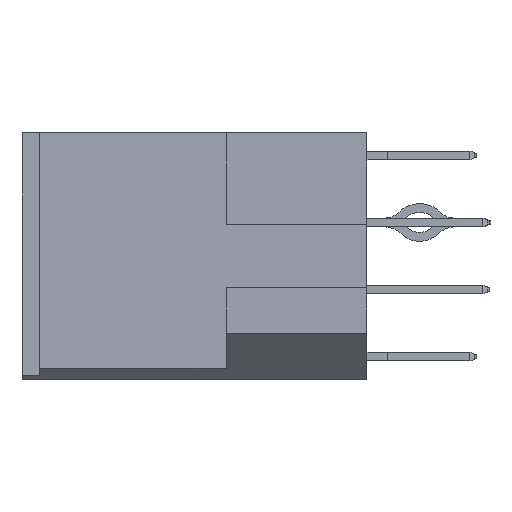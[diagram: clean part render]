
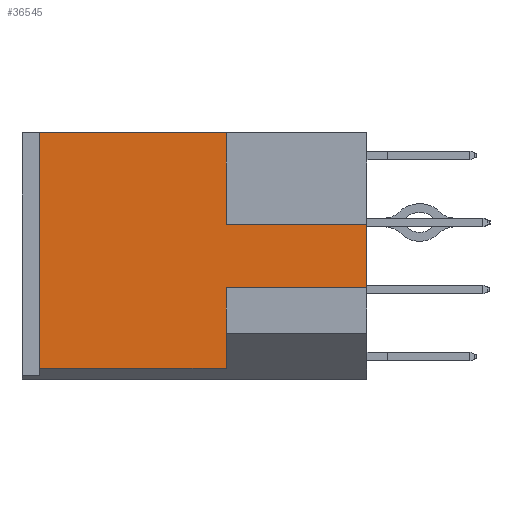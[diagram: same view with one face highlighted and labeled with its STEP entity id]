
A CAD part, left-side view. The second image highlights one B-rep face of the part: STEP entity #36545.
In plain terms, the highlighted planar face has unit normal (-1, 0, 0).
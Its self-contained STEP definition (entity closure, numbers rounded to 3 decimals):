
#94 = VERTEX_POINT ( 'NONE', #20572 ) ;
#713 = DIRECTION ( 'NONE',  ( 0., 0., -1. ) ) ;
#787 = VECTOR ( 'NONE', #25793, 1000. ) ;
#2533 = LINE ( 'NONE', #24975, #3981 ) ;
#2606 = VERTEX_POINT ( 'NONE', #25794 ) ;
#2812 = LINE ( 'NONE', #38602, #787 ) ;
#3001 = ORIENTED_EDGE ( 'NONE', *, *, #18789, .T. ) ;
#3102 = VECTOR ( 'NONE', #713, 1000. ) ;
#3981 = VECTOR ( 'NONE', #21590, 1000. ) ;
#5140 = DIRECTION ( 'NONE',  ( 0., -1., 0. ) ) ;
#5220 = VERTEX_POINT ( 'NONE', #19575 ) ;
#5568 = DIRECTION ( 'NONE',  ( 0., -1., 0. ) ) ;
#6115 = VERTEX_POINT ( 'NONE', #19783 ) ;
#7043 = LINE ( 'NONE', #30643, #24716 ) ;
#7347 = VECTOR ( 'NONE', #9119, 1000. ) ;
#8269 = VERTEX_POINT ( 'NONE', #31326 ) ;
#9119 = DIRECTION ( 'NONE',  ( 0., -1., 0. ) ) ;
#9605 = CARTESIAN_POINT ( 'NONE',  ( -10.925, 5.2, 3.5 ) ) ;
#9697 = VERTEX_POINT ( 'NONE', #21765 ) ;
#11444 = LINE ( 'NONE', #13621, #3102 ) ;
#13076 = LINE ( 'NONE', #37970, #38072 ) ;
#13621 = CARTESIAN_POINT ( 'NONE',  ( -10.925, 5.2, 5. ) ) ;
#14588 = AXIS2_PLACEMENT_3D ( 'NONE', #35726, #27117, #36681 ) ;
#15154 = CARTESIAN_POINT ( 'NONE',  ( -10.925, -4.1, -3.195 ) ) ;
#15799 = CARTESIAN_POINT ( 'NONE',  ( -10.925, -4.1, 3.5 ) ) ;
#16750 = EDGE_LOOP ( 'NONE', ( #31126, #28504, #27374, #27071, #39712, #3001, #28943, #36838 ) ) ;
#18789 = EDGE_CURVE ( 'NONE', #8269, #6115, #27956, .T. ) ;
#19252 = DIRECTION ( 'NONE',  ( 0., 0., -1. ) ) ;
#19575 = CARTESIAN_POINT ( 'NONE',  ( -10.925, -4.1, -0.9 ) ) ;
#19783 = CARTESIAN_POINT ( 'NONE',  ( -10.925, -0.1, -3.195 ) ) ;
#20572 = CARTESIAN_POINT ( 'NONE',  ( -10.925, -0.1, 0.9 ) ) ;
#21590 = DIRECTION ( 'NONE',  ( 0., 0., -1. ) ) ;
#21765 = CARTESIAN_POINT ( 'NONE',  ( -10.925, -0.1, -0.9 ) ) ;
#23860 = VECTOR ( 'NONE', #33383, 1000. ) ;
#23940 = CARTESIAN_POINT ( 'NONE',  ( -10.925, 0.556, 0.9 ) ) ;
#24666 = VERTEX_POINT ( 'NONE', #39473 ) ;
#24716 = VECTOR ( 'NONE', #5568, 1000. ) ;
#24975 = CARTESIAN_POINT ( 'NONE',  ( -10.925, -0.1, 5. ) ) ;
#25793 = DIRECTION ( 'NONE',  ( 0., 0., -1. ) ) ;
#25794 = CARTESIAN_POINT ( 'NONE',  ( -10.925, -4.1, 0.9 ) ) ;
#25838 = LINE ( 'NONE', #15799, #23860 ) ;
#26434 = PLANE ( 'NONE',  #14588 ) ;
#27035 = EDGE_CURVE ( 'NONE', #9697, #6115, #13076, .T. ) ;
#27071 = ORIENTED_EDGE ( 'NONE', *, *, #40106, .T. ) ;
#27117 = DIRECTION ( 'NONE',  ( 1., 0., 0. ) ) ;
#27374 = ORIENTED_EDGE ( 'NONE', *, *, #30147, .F. ) ;
#27573 = VERTEX_POINT ( 'NONE', #9605 ) ;
#27956 = LINE ( 'NONE', #15154, #7347 ) ;
#28504 = ORIENTED_EDGE ( 'NONE', *, *, #38637, .F. ) ;
#28943 = ORIENTED_EDGE ( 'NONE', *, *, #27035, .F. ) ;
#29360 = EDGE_CURVE ( 'NONE', #9697, #5220, #7043, .T. ) ;
#29899 = LINE ( 'NONE', #23940, #31853 ) ;
#30147 = EDGE_CURVE ( 'NONE', #24666, #94, #2533, .T. ) ;
#30643 = CARTESIAN_POINT ( 'NONE',  ( -10.925, 0.556, -0.9 ) ) ;
#31126 = ORIENTED_EDGE ( 'NONE', *, *, #34464, .F. ) ;
#31326 = CARTESIAN_POINT ( 'NONE',  ( -10.925, 5.2, -3.195 ) ) ;
#31853 = VECTOR ( 'NONE', #5140, 1000. ) ;
#33383 = DIRECTION ( 'NONE',  ( 0., 1., 0. ) ) ;
#34464 = EDGE_CURVE ( 'NONE', #2606, #5220, #2812, .T. ) ;
#35726 = CARTESIAN_POINT ( 'NONE',  ( -10.925, -0.1, 5. ) ) ;
#36545 = ADVANCED_FACE ( 'NONE', ( #39419 ), #26434, .F. ) ;
#36681 = DIRECTION ( 'NONE',  ( 0., -1., 0. ) ) ;
#36838 = ORIENTED_EDGE ( 'NONE', *, *, #29360, .T. ) ;
#36862 = EDGE_CURVE ( 'NONE', #27573, #8269, #11444, .T. ) ;
#37970 = CARTESIAN_POINT ( 'NONE',  ( -10.925, -0.1, 5. ) ) ;
#38072 = VECTOR ( 'NONE', #19252, 1000. ) ;
#38602 = CARTESIAN_POINT ( 'NONE',  ( -10.925, -4.1, 3.5 ) ) ;
#38637 = EDGE_CURVE ( 'NONE', #94, #2606, #29899, .T. ) ;
#39419 = FACE_OUTER_BOUND ( 'NONE', #16750, .T. ) ;
#39473 = CARTESIAN_POINT ( 'NONE',  ( -10.925, -0.1, 3.5 ) ) ;
#39712 = ORIENTED_EDGE ( 'NONE', *, *, #36862, .T. ) ;
#40106 = EDGE_CURVE ( 'NONE', #24666, #27573, #25838, .T. ) ;
